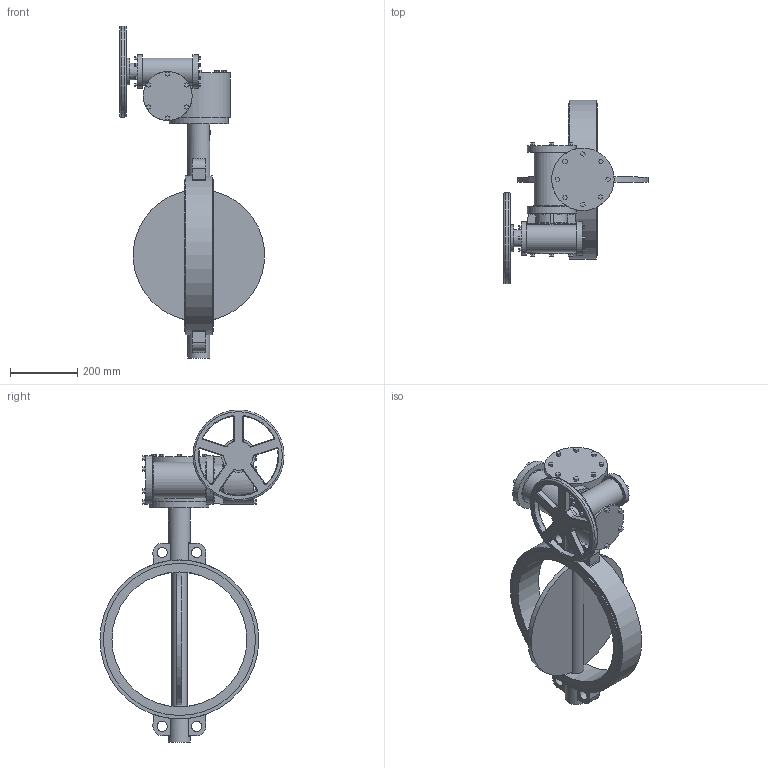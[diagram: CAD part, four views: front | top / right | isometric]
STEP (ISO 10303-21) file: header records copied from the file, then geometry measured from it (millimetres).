
FILE_DESCRIPTION(('STEP AP203'), '1');
FILE_NAME('青蜮铕 017W.YS_DN400_PN16_疱潴牝铕', '', ('UNSPECIFIED'), ('UNSPECIFIED'), 'ASCON STEP Converter 1.6', 'ASCON Math Kernel', '');
FILE_SCHEMA(('CONFIG_CONTROL_DESIGN'));
Length unit declared in the file: millimetre
Bounding box: 429.09 x 545.5 x 984 mm (x, y, z)
Volume: 16047791.3 mm3; surface area: 1115062.5 mm2
Topology: 7 solids, 7 shells, 543 faces, 1341 edges, 869 vertices
Faces by surface type: plane 381, cylinder 97, torus 51, cone 8, bspline 6
Full cylindrical faces by diameter (mm): 15.294 x4, 18 x4, 30 x4, 45 x1, 50.093 x1, 65 x2, 79.093 x1, 80 x1, 100 x2, 145 x3, 175 x1, 185 x1, 270 x1, 400 x1, 451 x2, 471 x1
Entity records: 24101 total; most frequent: CARTESIAN_POINT 6872, ORIENTED_EDGE 2590, DIRECTION 2573, EDGE_CURVE 1295, LINE 935, VECTOR 935, VERTEX_POINT 865, AXIS2_PLACEMENT_3D 819
